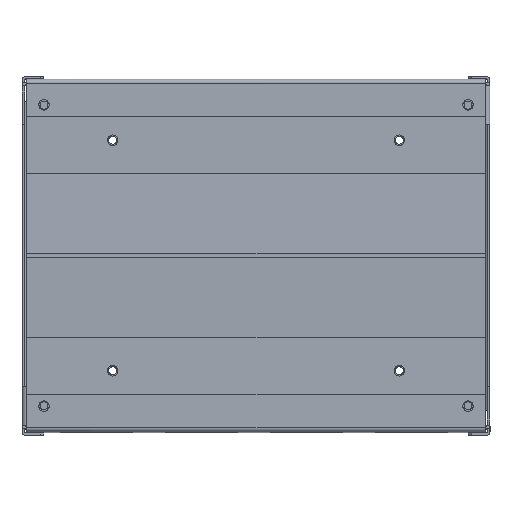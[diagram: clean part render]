
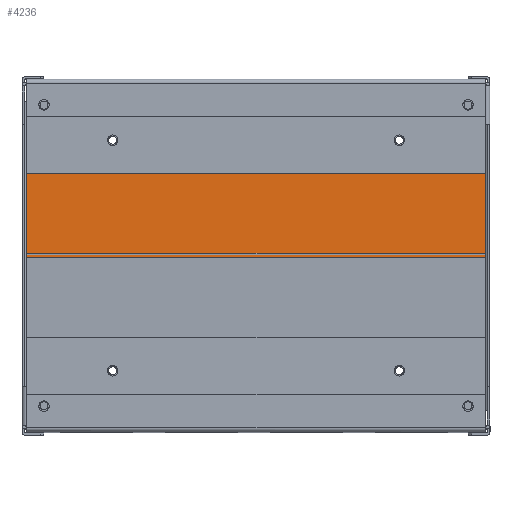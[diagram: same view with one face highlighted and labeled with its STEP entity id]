
A CAD part, top view. The second image highlights one B-rep face of the part: STEP entity #4236.
In plain terms, the highlighted planar face has unit normal (0, 0.033, 1) as drawn and (0.999, 0.033, 0) by its records, which use the part's own axes.
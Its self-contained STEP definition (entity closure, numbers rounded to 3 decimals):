
#3711=CARTESIAN_POINT(' ',(4.75,-50.,0.));
#3712=VERTEX_POINT(' ',#3711);
#3726=CARTESIAN_POINT(' ',(4.75,-50.,240.));
#3731=DIRECTION(' ',(0.,0.,-1.));
#3736=VECTOR(' ',#3731,1.);
#3741=LINE('',#3726,#3736);
#3746=CARTESIAN_POINT(' ',(4.75,-50.,240.));
#3747=VERTEX_POINT(' ',#3746);
#3751=EDGE_CURVE(' ',#3747,#3712,#3741,.T.);
#3996=CARTESIAN_POINT(' ',(3.25,-4.7,0.));
#3997=VERTEX_POINT(' ',#3996);
#4011=CARTESIAN_POINT(' ',(4.75,-50.,0.));
#4016=DIRECTION(' ',(-0.033,0.999,0.));
#4021=VECTOR(' ',#4016,1.);
#4026=LINE('',#4011,#4021);
#4031=EDGE_CURVE(' ',#3712,#3997,#4026,.T.);
#4126=DIRECTION(' ',(0.999,0.033,-0.));
#4131=CARTESIAN_POINT(' ',(3.25,-4.7,0.));
#4136=DIRECTION(' ',(0.,0.,1.));
#4141=AXIS2_PLACEMENT_3D(' ',#4131,#4126,#4136);
#4146=PLANE('NONE',#4141);
#4151=ORIENTED_EDGE(' ',*,*,#4031,.T.);
#4156=CARTESIAN_POINT(' ',(3.25,-4.7,240.));
#4161=DIRECTION(' ',(0.,0.,-1.));
#4166=VECTOR(' ',#4161,1.);
#4171=LINE('',#4156,#4166);
#4176=CARTESIAN_POINT(' ',(3.25,-4.7,240.));
#4177=VERTEX_POINT(' ',#4176);
#4181=EDGE_CURVE(' ',#4177,#3997,#4171,.T.);
#4186=ORIENTED_EDGE(' ',*,*,#4181,.F.);
#4191=CARTESIAN_POINT(' ',(4.75,-50.,240.));
#4196=DIRECTION(' ',(-0.033,0.999,0.));
#4201=VECTOR(' ',#4196,1.);
#4206=LINE('',#4191,#4201);
#4211=EDGE_CURVE(' ',#3747,#4177,#4206,.T.);
#4216=ORIENTED_EDGE(' ',*,*,#4211,.F.);
#4221=ORIENTED_EDGE(' ',*,*,#3751,.T.);
#4226=EDGE_LOOP(' ',(#4151,#4186,#4216,#4221));
#4231=FACE_OUTER_BOUND(' ',#4226,.T.);
#4236=ADVANCED_FACE('NONE',(#4231),#4146,.T.);
